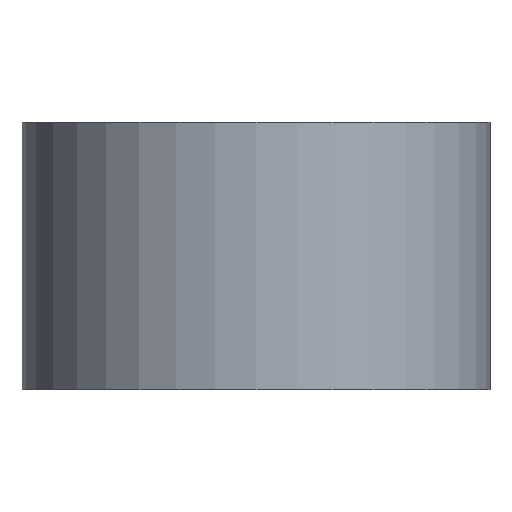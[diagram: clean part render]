
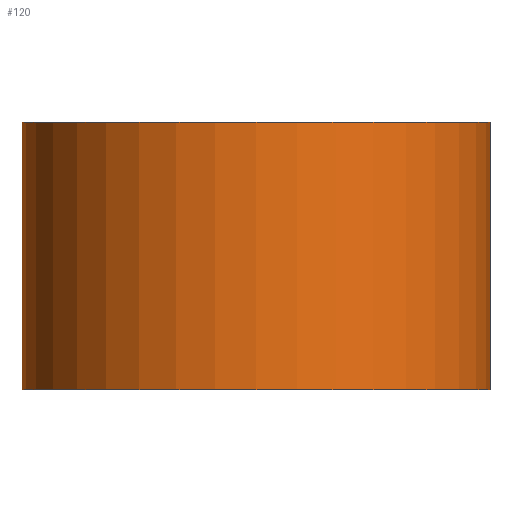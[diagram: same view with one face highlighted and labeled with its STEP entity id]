
A CAD part, front view. The second image highlights one B-rep face of the part: STEP entity #120.
In plain terms, the highlighted cylindrical face has radius 106 mm (diameter 212 mm), a partial arc.
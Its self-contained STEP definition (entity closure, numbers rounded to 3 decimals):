
#64=CARTESIAN_POINT('Axis2P3D Location',(0.,0.,60.5)) ;
#69=CARTESIAN_POINT('Line Origine',(106.,0.,60.5)) ;
#73=CARTESIAN_POINT('Vertex',(106.,0.,0.)) ;
#75=CARTESIAN_POINT('Vertex',(106.,0.,121.)) ;
#82=CARTESIAN_POINT('Vertex',(-106.,0.,0.)) ;
#85=CARTESIAN_POINT('Line Origine',(-106.,0.,60.5)) ;
#89=CARTESIAN_POINT('Vertex',(-106.,0.,121.)) ;
#104=CARTESIAN_POINT('Axis2P3D Location',(0.,0.,0.)) ;
#109=CARTESIAN_POINT('Axis2P3D Location',(0.,0.,121.)) ;
#65=DIRECTION('Axis2P3D Direction',(0.,0.,1.)) ;
#66=DIRECTION('Axis2P3D XDirection',(1.,0.,0.)) ;
#70=DIRECTION('Vector Direction',(0.,0.,1.)) ;
#86=DIRECTION('Vector Direction',(0.,0.,1.)) ;
#105=DIRECTION('Axis2P3D Direction',(0.,0.,1.)) ;
#110=DIRECTION('Axis2P3D Direction',(0.,0.,1.)) ;
#67=AXIS2_PLACEMENT_3D('Cylinder Axis2P3D',#64,#65,#66) ;
#106=AXIS2_PLACEMENT_3D('Circle Axis2P3D',#104,#105,$) ;
#111=AXIS2_PLACEMENT_3D('Circle Axis2P3D',#109,#110,$) ;
#115=ORIENTED_EDGE('',*,*,#91,.F.) ;
#116=ORIENTED_EDGE('',*,*,#108,.T.) ;
#117=ORIENTED_EDGE('',*,*,#77,.T.) ;
#118=ORIENTED_EDGE('',*,*,#113,.F.) ;
#71=VECTOR('Line Direction',#70,1.) ;
#87=VECTOR('Line Direction',#86,1.) ;
#120=ADVANCED_FACE('PartBody',(#119),#68,.T.) ;
#107=CIRCLE('generated circle',#106,106.) ;
#112=CIRCLE('generated circle',#111,106.) ;
#68=CYLINDRICAL_SURFACE('generated cylinder',#67,106.) ;
#77=EDGE_CURVE('',#74,#76,#72,.T.) ;
#91=EDGE_CURVE('',#83,#90,#88,.T.) ;
#108=EDGE_CURVE('',#83,#74,#107,.T.) ;
#113=EDGE_CURVE('',#90,#76,#112,.T.) ;
#114=EDGE_LOOP('',(#115,#116,#117,#118)) ;
#119=FACE_OUTER_BOUND('',#114,.T.) ;
#72=LINE('Line',#69,#71) ;
#88=LINE('Line',#85,#87) ;
#74=VERTEX_POINT('',#73) ;
#76=VERTEX_POINT('',#75) ;
#83=VERTEX_POINT('',#82) ;
#90=VERTEX_POINT('',#89) ;
